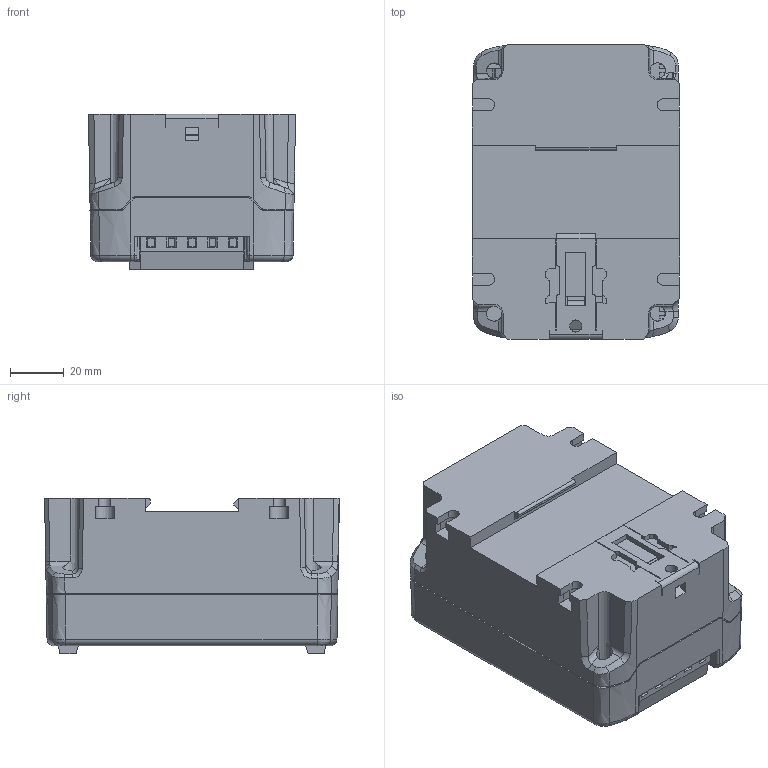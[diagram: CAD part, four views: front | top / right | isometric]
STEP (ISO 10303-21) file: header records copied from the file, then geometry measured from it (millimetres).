
FILE_DESCRIPTION (( 'STEP AP203' ), '1' );
FILE_NAME ('HAT310.STEP', '2019-09-24T06:21:16', ( '微软用户' ), ( '微软中国' ), 'SwSTEP 2.0', 'SolidWorks 2018', '' );
FILE_SCHEMA (( 'CONFIG_CONTROL_DESIGN' ));
Length unit declared in the file: millimetre
Products named in the file (1): HAT310
Bounding box: 77.26 x 110 x 58 mm (x, y, z)
Volume: 418185.1 mm3; surface area: 48040.2 mm2
Topology: 1 solids, 32 shells, 976 faces, 2477 edges, 1597 vertices
Faces by surface type: plane 656, cylinder 162, bspline 90, cone 63, torus 5
Entity records: 32288 total; most frequent: CARTESIAN_POINT 9982, ORIENTED_EDGE 4954, DIRECTION 4051, EDGE_CURVE 2477, VECTOR 1615, LINE 1615, VERTEX_POINT 1597, AXIS2_PLACEMENT_3D 1218
